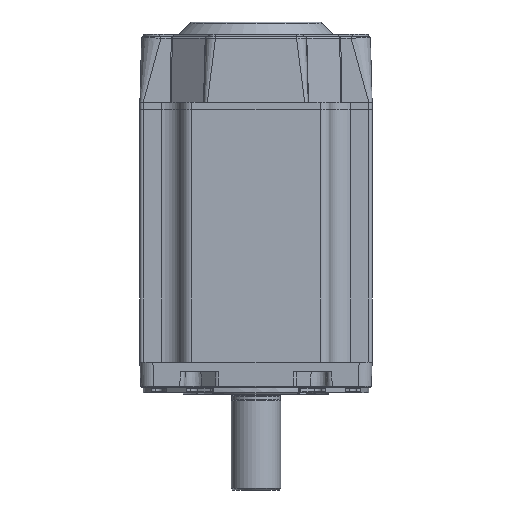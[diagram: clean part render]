
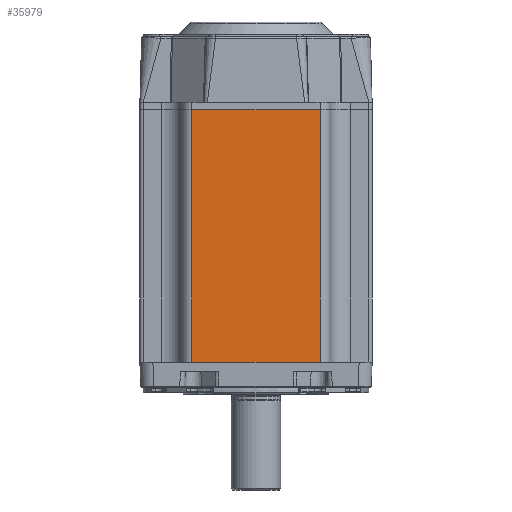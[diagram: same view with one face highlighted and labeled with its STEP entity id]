
A CAD part, front view. The second image highlights one B-rep face of the part: STEP entity #35979.
In plain terms, the highlighted planar face has unit normal (0, -1, 0).
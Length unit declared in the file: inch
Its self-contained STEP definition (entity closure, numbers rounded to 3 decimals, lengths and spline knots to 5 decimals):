
#33776=CARTESIAN_POINT('',(1.2275,-2.225,-4.84));
#33777=VERTEX_POINT('',#33776);
#33784=CARTESIAN_POINT('',(-1.2275,-2.225,-4.84));
#33785=VERTEX_POINT('',#33784);
#33786=CARTESIAN_POINT('',(-1.2275,-2.225,-4.84));
#33787=DIRECTION('',(1.0,0.0,0.0));
#33788=VECTOR('',#33787,2.455);
#33789=LINE('',#33786,#33788);
#33790=EDGE_CURVE('',#33785,#33777,#33789,.T.);
#35896=CARTESIAN_POINT('',(1.2275,-2.225,0.));
#35897=VERTEX_POINT('',#35896);
#35905=CARTESIAN_POINT('',(1.2275,-2.225,0.));
#35906=DIRECTION('',(0.0,0.0,-1.0));
#35907=VECTOR('',#35906,4.84);
#35908=LINE('',#35905,#35907);
#35909=EDGE_CURVE('',#35897,#33777,#35908,.T.);
#35956=CARTESIAN_POINT('',(1.415,-2.225,0.0));
#35957=DIRECTION('',(0.0,-1.0,0.0));
#35958=DIRECTION('',(0.0,0.0,-1.0));
#35959=AXIS2_PLACEMENT_3D('',#35956,#35957,#35958);
#35960=PLANE('',#35959);
#35961=CARTESIAN_POINT('',(-1.2275,-2.225,0.));
#35962=VERTEX_POINT('',#35961);
#35963=CARTESIAN_POINT('',(1.2275,-2.225,0.));
#35964=DIRECTION('',(-1.0,0.0,0.0));
#35965=VECTOR('',#35964,2.455);
#35966=LINE('',#35963,#35965);
#35967=EDGE_CURVE('',#35897,#35962,#35966,.T.);
#35968=ORIENTED_EDGE('',*,*,#35967,.T.);
#35969=CARTESIAN_POINT('',(-1.2275,-2.225,-4.84));
#35970=DIRECTION('',(0.0,0.0,1.0));
#35971=VECTOR('',#35970,4.84);
#35972=LINE('',#35969,#35971);
#35973=EDGE_CURVE('',#33785,#35962,#35972,.T.);
#35974=ORIENTED_EDGE('',*,*,#35973,.F.);
#35975=ORIENTED_EDGE('',*,*,#33790,.T.);
#35976=ORIENTED_EDGE('',*,*,#35909,.F.);
#35977=EDGE_LOOP('',(#35968,#35974,#35975,#35976));
#35978=FACE_OUTER_BOUND('',#35977,.T.);
#35979=ADVANCED_FACE('',(#35978),#35960,.T.);
